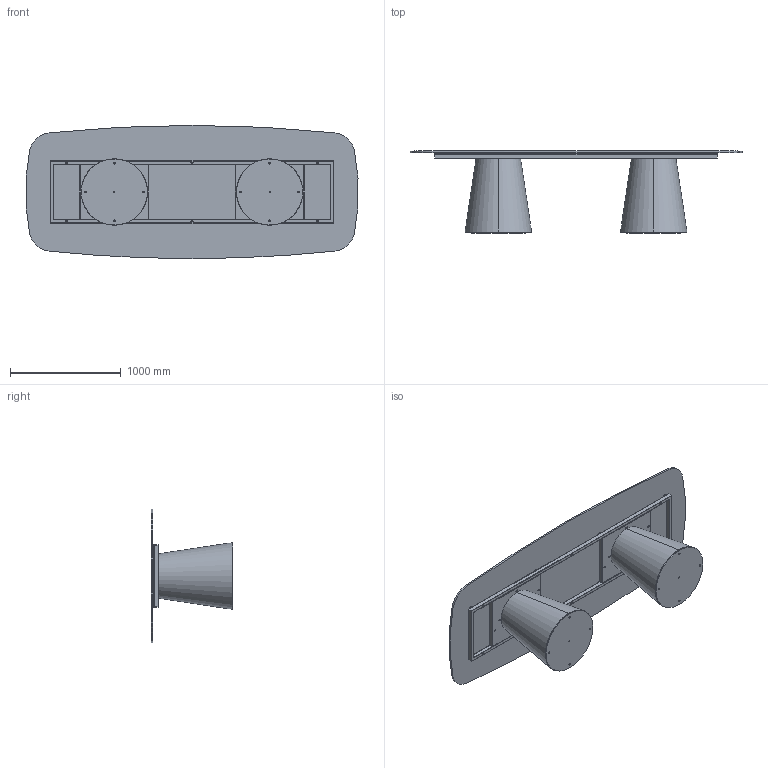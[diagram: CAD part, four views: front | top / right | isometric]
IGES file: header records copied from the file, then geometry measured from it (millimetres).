
Start section: SolidWorks IGES file using analytic representation for surfaces
Global section: file name: Y:\eforma\TECNICO\SOLIDWORKS\E-FORMA\1-TAVOLI\TEO\08 modelli 3D web\TO44G_Teo_300x120_Glass Shaped.IGS; native system: SolidWorks 2022; preprocessor: SolidWorks 2022; author: eforma.tech; date: 240802.113937; units: millimetre
Bounding box: 2991.72 x 738.19 x 1200 mm (x, y, z)
Volume: 110909305.3 mm3; surface area: 16468035.8 mm2
Topology: 32 solids, 32 shells, 863 faces, 1955 edges, 1146 vertices
Faces by surface type: revolution 441, plane 422
